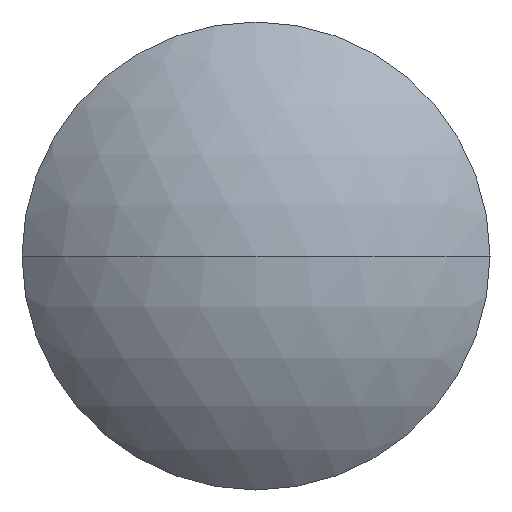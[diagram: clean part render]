
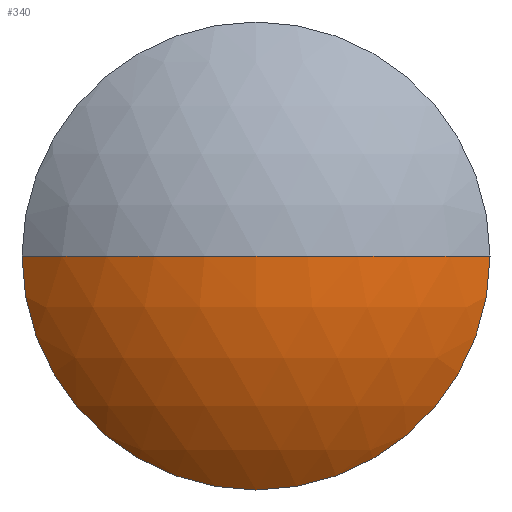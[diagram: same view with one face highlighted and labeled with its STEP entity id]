
A CAD part, left-side view. The second image highlights one B-rep face of the part: STEP entity #340.
In plain terms, the highlighted spherical face has radius 21.75 mm.
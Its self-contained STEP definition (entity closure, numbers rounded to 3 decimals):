
#3 = DIRECTION ( 'NONE',  ( 0., 0., -1. ) ) ;
#7 = CIRCLE ( 'NONE', #277, 15. ) ;
#10 = DIRECTION ( 'NONE',  ( 0., 0., 1. ) ) ;
#24 = DIRECTION ( 'NONE',  ( -1., 0., 0. ) ) ;
#29 = EDGE_CURVE ( 'NONE', #74, #160, #120, .T. ) ;
#34 = CARTESIAN_POINT ( 'NONE',  ( -2., 0., 0. ) ) ;
#39 = CIRCLE ( 'NONE', #307, 21.75 ) ;
#43 = CARTESIAN_POINT ( 'NONE',  ( -8., 0., 0. ) ) ;
#57 = VERTEX_POINT ( 'NONE', #88 ) ;
#71 = AXIS2_PLACEMENT_3D ( 'NONE', #305, #188, #244 ) ;
#72 = CIRCLE ( 'NONE', #71, 21.75 ) ;
#73 = CARTESIAN_POINT ( 'NONE',  ( 13.75, 0., 0. ) ) ;
#74 = VERTEX_POINT ( 'NONE', #171 ) ;
#75 = CARTESIAN_POINT ( 'NONE',  ( -2., 0., 0. ) ) ;
#78 = VERTEX_POINT ( 'NONE', #43 ) ;
#79 = ORIENTED_EDGE ( 'NONE', *, *, #246, .F. ) ;
#88 = CARTESIAN_POINT ( 'NONE',  ( -2., 15., 0. ) ) ;
#92 = SPHERICAL_SURFACE ( 'NONE', #230, 21.75 ) ;
#114 = DIRECTION ( 'NONE',  ( 0., 1., 0. ) ) ;
#120 = CIRCLE ( 'NONE', #299, 15. ) ;
#125 = FACE_OUTER_BOUND ( 'NONE', #213, .T. ) ;
#153 = EDGE_CURVE ( 'NONE', #160, #78, #39, .T. ) ;
#160 = VERTEX_POINT ( 'NONE', #278 ) ;
#171 = CARTESIAN_POINT ( 'NONE',  ( -2., 0., -15. ) ) ;
#173 = DIRECTION ( 'NONE',  ( 0., 0., 1. ) ) ;
#188 = DIRECTION ( 'NONE',  ( 0., 0., 1. ) ) ;
#197 = DIRECTION ( 'NONE',  ( 0., 1., 0. ) ) ;
#213 = EDGE_LOOP ( 'NONE', ( #270, #243, #303, #79 ) ) ;
#229 = DIRECTION ( 'NONE',  ( 0., 0., -1. ) ) ;
#230 = AXIS2_PLACEMENT_3D ( 'NONE', #73, #229, #197 ) ;
#236 = CARTESIAN_POINT ( 'NONE',  ( 13.75, 0., 0. ) ) ;
#243 = ORIENTED_EDGE ( 'NONE', *, *, #29, .T. ) ;
#244 = DIRECTION ( 'NONE',  ( 1., 0., 0. ) ) ;
#246 = EDGE_CURVE ( 'NONE', #57, #78, #72, .T. ) ;
#252 = EDGE_CURVE ( 'NONE', #57, #74, #7, .T. ) ;
#268 = DIRECTION ( 'NONE',  ( -1., 0., 0. ) ) ;
#270 = ORIENTED_EDGE ( 'NONE', *, *, #252, .T. ) ;
#277 = AXIS2_PLACEMENT_3D ( 'NONE', #34, #268, #173 ) ;
#278 = CARTESIAN_POINT ( 'NONE',  ( -2., -15., 0. ) ) ;
#299 = AXIS2_PLACEMENT_3D ( 'NONE', #75, #24, #10 ) ;
#303 = ORIENTED_EDGE ( 'NONE', *, *, #153, .T. ) ;
#305 = CARTESIAN_POINT ( 'NONE',  ( 13.75, 0., 0. ) ) ;
#307 = AXIS2_PLACEMENT_3D ( 'NONE', #236, #3, #114 ) ;
#340 = ADVANCED_FACE ( 'NONE', ( #125 ), #92, .T. ) ;
